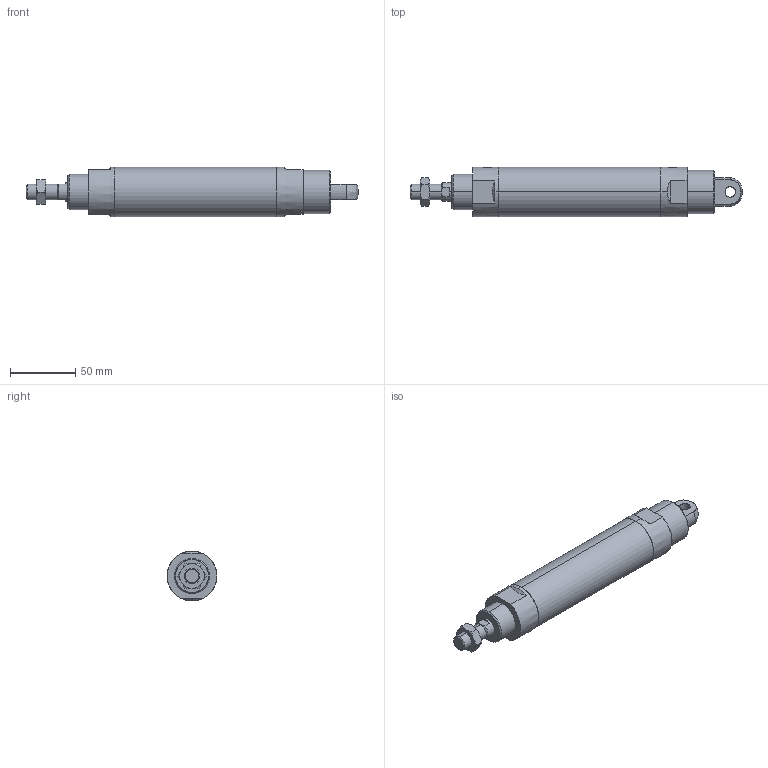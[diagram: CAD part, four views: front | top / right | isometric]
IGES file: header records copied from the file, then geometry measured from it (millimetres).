
Start section: SolidWorks IGES file using analytic representation for surfaces
Global section: file name: C:\Users\Toshiba\Desktop\J#2-32-75-C.IGS; native system: SolidWorks 2014; preprocessor: SolidWorks 2014; author: Toshiba; date: 160308.153431; units: millimetre
Bounding box: 254 x 38 x 38 mm (x, y, z)
Surface area: 29930.4 mm2 (no closed solid volume)
Topology: 0 solids, 0 shells, 81 faces, 1552 edges, 1548 vertices
Faces by surface type: bspline 42, revolution 39
